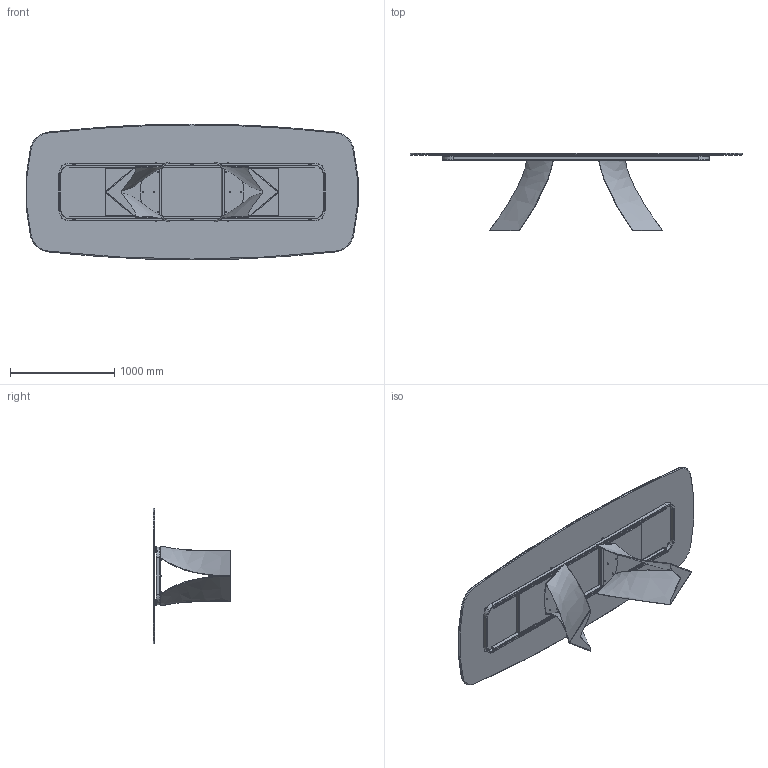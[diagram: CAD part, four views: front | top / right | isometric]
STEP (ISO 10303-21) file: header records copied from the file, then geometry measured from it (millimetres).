
FILE_DESCRIPTION (( 'STEP AP203' ), '1' );
FILE_NAME ('TW44C.STEP', '2024-08-07T12:44:45', ( '' ), ( '' ), 'SwSTEP 2.0', 'SolidWorks 2022', '' );
FILE_SCHEMA (( 'CONFIG_CONTROL_DESIGN' ));
Length unit declared in the file: millimetre
Products named in the file (10): rondella M8_8X16; TTAX03_01-00-TELAIO UNIVERSALE X TWIST 300 320cm_Default<A macchina>; PIEDINO PLASTICA PER TWIST; K4XCMXX-00-Piani Sagomati in ceramica_3190 x 1300; TW44C; TTAX03_02-00-VASSOIO IRRIGIDIMENTO TELAIO TWIST 300; 434070-00-PIEDINO TPV GOMMA NERO D. 30x8max18; TWS000000BAS-00-TWIST BASE GREZZA; TTAV10-00-TELAIO X TAVOLO TWIST 300 320cm; M8xXXmm_M8x20mm
Assembly tree (43 placements, depth 3):
  TW44C
    K4XCMXX-00-Piani Sagomati in ceramica_3190 x 1300
    TWS000000BAS-00-TWIST BASE GREZZA  x2
    TTAV10-00-TELAIO X TAVOLO TWIST 300 320cm
      TTAX03_01-00-TELAIO UNIVERSALE X TWIST 300 320cm_Default<A macchina>
      TTAX03_02-00-VASSOIO IRRIGIDIMENTO TELAIO TWIST 300  x2
    M8xXXmm_M8x20mm  x12
    rondella M8_8X16  x12
    434070-00-PIEDINO TPV GOMMA NERO D. 30x8max18  x8
    PIEDINO PLASTICA PER TWIST  x4
Bounding box: 3179.54 x 741.37 x 1300 mm (x, y, z)
Volume: 75021620.9 mm3; surface area: 21593761.5 mm2
Topology: 68 solids, 68 shells, 1291 faces, 2999 edges, 1836 vertices
Faces by surface type: plane 520, cylinder 356, torus 208, cone 141, bspline 66
Entity records: 23425 total; most frequent: CARTESIAN_POINT 9035, DIRECTION 2682, ORIENTED_EDGE 2524, EDGE_CURVE 1262, AXIS2_PLACEMENT_3D 1017, VERTEX_POINT 817, VECTOR 648, LINE 648
